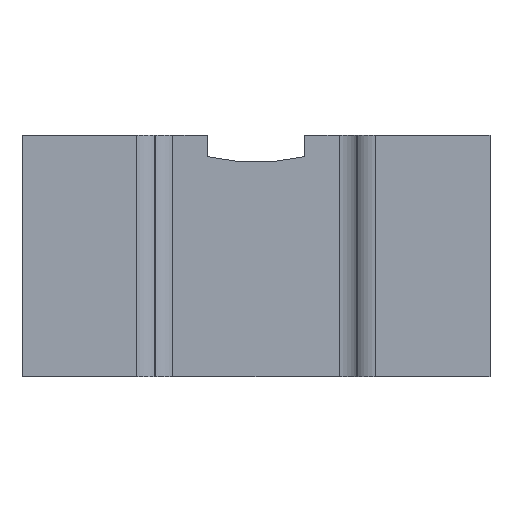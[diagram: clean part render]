
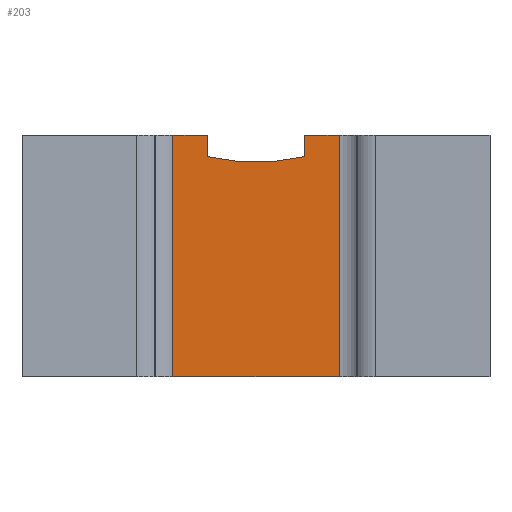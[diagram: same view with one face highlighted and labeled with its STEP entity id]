
A CAD part, front view. The second image highlights one B-rep face of the part: STEP entity #203.
In plain terms, the highlighted planar face has unit normal (0, -1, 0).
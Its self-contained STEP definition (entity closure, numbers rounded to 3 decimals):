
#15 = DIRECTION ( 'NONE',  ( 0., 0., -1. ) ) ;
#18 = DIRECTION ( 'NONE',  ( 1., 0., 0. ) ) ;
#22 = PLANE ( 'NONE',  #302 ) ;
#50 = VECTOR ( 'NONE', #672, 1000. ) ;
#60 = LINE ( 'NONE', #720, #50 ) ;
#62 = ORIENTED_EDGE ( 'NONE', *, *, #589, .F. ) ;
#85 = VECTOR ( 'NONE', #690, 1000. ) ;
#96 = CARTESIAN_POINT ( 'NONE',  ( -2.669, 0.5, 3.875 ) ) ;
#102 = ORIENTED_EDGE ( 'NONE', *, *, #821, .T. ) ;
#134 = VERTEX_POINT ( 'NONE', #772 ) ;
#139 = EDGE_CURVE ( 'NONE', #613, #791, #777, .T. ) ;
#173 = LINE ( 'NONE', #696, #454 ) ;
#203 = ADVANCED_FACE ( 'NONE', ( #435 ), #22, .F. ) ;
#208 = CARTESIAN_POINT ( 'NONE',  ( -2.669, 0.5, -3.875 ) ) ;
#220 = DIRECTION ( 'NONE',  ( 0., -1., 0. ) ) ;
#250 = ORIENTED_EDGE ( 'NONE', *, *, #321, .T. ) ;
#298 = CARTESIAN_POINT ( 'NONE',  ( -2.669, 0.5, 3.875 ) ) ;
#302 = AXIS2_PLACEMENT_3D ( 'NONE', #96, #829, #18 ) ;
#321 = EDGE_CURVE ( 'NONE', #365, #507, #604, .T. ) ;
#329 = DIRECTION ( 'NONE',  ( 0., 0., -1. ) ) ;
#340 = CARTESIAN_POINT ( 'NONE',  ( -2.669, 0.5, 3.875 ) ) ;
#353 = LINE ( 'NONE', #298, #85 ) ;
#365 = VERTEX_POINT ( 'NONE', #340 ) ;
#383 = VECTOR ( 'NONE', #513, 1000. ) ;
#392 = EDGE_CURVE ( 'NONE', #704, #613, #60, .T. ) ;
#418 = ORIENTED_EDGE ( 'NONE', *, *, #774, .F. ) ;
#429 = CARTESIAN_POINT ( 'NONE',  ( -1.555, 0.5, 3.875 ) ) ;
#432 = LINE ( 'NONE', #709, #383 ) ;
#435 = FACE_OUTER_BOUND ( 'NONE', #538, .T. ) ;
#454 = VECTOR ( 'NONE', #15, 1000. ) ;
#456 = CARTESIAN_POINT ( 'NONE',  ( -1.555, 0.5, 3.186 ) ) ;
#481 = CARTESIAN_POINT ( 'NONE',  ( 2.669, 0.5, 3.875 ) ) ;
#499 = CARTESIAN_POINT ( 'NONE',  ( 1.555, 0.5, 3.875 ) ) ;
#501 = CARTESIAN_POINT ( 'NONE',  ( 2.669, 0.5, 3.875 ) ) ;
#502 = EDGE_CURVE ( 'NONE', #798, #134, #526, .T. ) ;
#507 = VERTEX_POINT ( 'NONE', #208 ) ;
#513 = DIRECTION ( 'NONE',  ( 1., 0., 0. ) ) ;
#526 = CIRCLE ( 'NONE', #563, 6.611 ) ;
#538 = EDGE_LOOP ( 'NONE', ( #682, #418, #558, #665, #62, #250, #102, #667 ) ) ;
#554 = VECTOR ( 'NONE', #640, 1000. ) ;
#558 = ORIENTED_EDGE ( 'NONE', *, *, #502, .F. ) ;
#563 = AXIS2_PLACEMENT_3D ( 'NONE', #614, #220, #761 ) ;
#564 = LINE ( 'NONE', #785, #554 ) ;
#572 = DIRECTION ( 'NONE',  ( 0., 0., -1. ) ) ;
#589 = EDGE_CURVE ( 'NONE', #365, #596, #353, .T. ) ;
#596 = VERTEX_POINT ( 'NONE', #429 ) ;
#604 = LINE ( 'NONE', #802, #835 ) ;
#613 = VERTEX_POINT ( 'NONE', #481 ) ;
#614 = CARTESIAN_POINT ( 'NONE',  ( 0., 0.5, 9.611 ) ) ;
#640 = DIRECTION ( 'NONE',  ( 0., 0., 1. ) ) ;
#665 = ORIENTED_EDGE ( 'NONE', *, *, #760, .F. ) ;
#667 = ORIENTED_EDGE ( 'NONE', *, *, #139, .F. ) ;
#672 = DIRECTION ( 'NONE',  ( 1., 0., 0. ) ) ;
#682 = ORIENTED_EDGE ( 'NONE', *, *, #392, .F. ) ;
#690 = DIRECTION ( 'NONE',  ( 1., 0., 0. ) ) ;
#696 = CARTESIAN_POINT ( 'NONE',  ( -1.555, 0.5, 3.186 ) ) ;
#704 = VERTEX_POINT ( 'NONE', #499 ) ;
#709 = CARTESIAN_POINT ( 'NONE',  ( -2.669, 0.5, -3.875 ) ) ;
#720 = CARTESIAN_POINT ( 'NONE',  ( -2.669, 0.5, 3.875 ) ) ;
#722 = CARTESIAN_POINT ( 'NONE',  ( 2.669, 0.5, -3.875 ) ) ;
#760 = EDGE_CURVE ( 'NONE', #596, #798, #173, .T. ) ;
#761 = DIRECTION ( 'NONE',  ( 0., 0., 1. ) ) ;
#767 = VECTOR ( 'NONE', #572, 1000. ) ;
#772 = CARTESIAN_POINT ( 'NONE',  ( 1.555, 0.5, 3.186 ) ) ;
#774 = EDGE_CURVE ( 'NONE', #134, #704, #564, .T. ) ;
#777 = LINE ( 'NONE', #501, #767 ) ;
#785 = CARTESIAN_POINT ( 'NONE',  ( 1.555, 0.5, 3.875 ) ) ;
#791 = VERTEX_POINT ( 'NONE', #722 ) ;
#798 = VERTEX_POINT ( 'NONE', #456 ) ;
#802 = CARTESIAN_POINT ( 'NONE',  ( -2.669, 0.5, 3.875 ) ) ;
#821 = EDGE_CURVE ( 'NONE', #507, #791, #432, .T. ) ;
#829 = DIRECTION ( 'NONE',  ( 0., 1., 0. ) ) ;
#835 = VECTOR ( 'NONE', #329, 1000. ) ;
